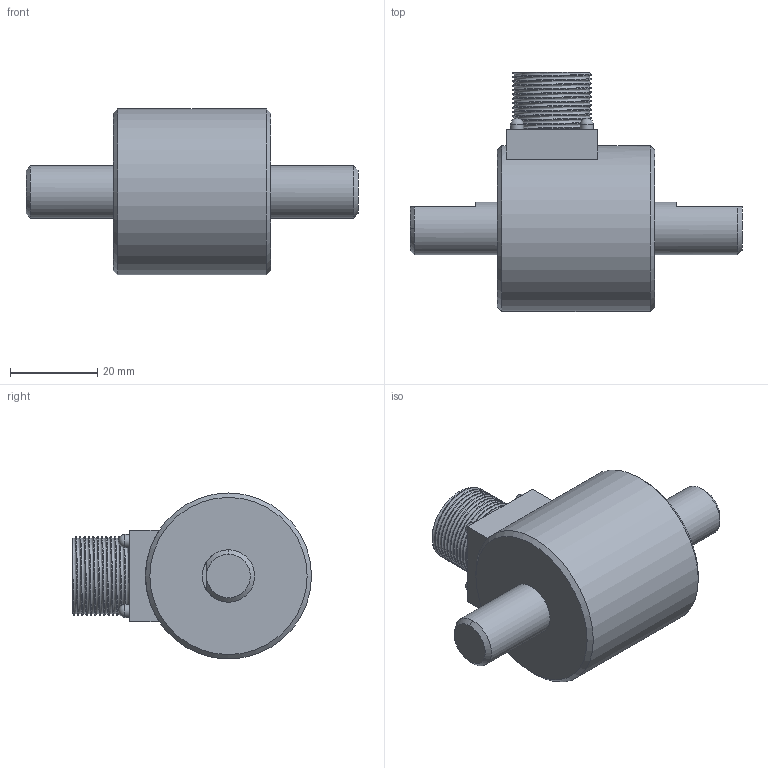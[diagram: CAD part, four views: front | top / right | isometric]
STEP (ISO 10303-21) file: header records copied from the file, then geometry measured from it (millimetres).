
FILE_DESCRIPTION(/* description */ (''),/* implementation_level */ '2;1');
FILE_NAME(/* name */ 'I:/New Datasheets/STEP Models/Pending models/YDNS/YDNS 0.2-5Nm.step',/* time_stamp */ '2020-10-08T10:22:46+01:00',/* author */ (''),/* organization */ (''),/* preprocessor_version */ 'ST-DEVELOPER v18.1',/* originating_system */ 'Autodesk Translation Framework v9.3.0.1241',/* authorisation */ '');
FILE_SCHEMA (('AUTOMOTIVE_DESIGN { 1 0 10303 214 3 1 1 }'));
Length unit declared in the file: millimetre
Products named in the file (3): YDNS 0.2-5Nm; YDNS 2~50KC Body; YDNS 2~50KC Shaft
Assembly tree (2 placements, depth 2):
  YDNS 0.2-5Nm
    YDNS 2~50KC Body
    YDNS 2~50KC Shaft
Bounding box: 76 x 54.7 x 38 mm (x, y, z)
Volume: 50332.7 mm3; surface area: 12163.7 mm2
Topology: 2 solids, 2 shells, 46 faces, 112 edges, 72 vertices
Faces by surface type: cylinder 21, plane 14, cone 6, sphere 4, bspline 1
Full cylindrical faces by diameter (mm): 3 x4, 12 x2, 18 x12, 38 x1
Entity records: 4071 total; most frequent: CARTESIAN_POINT 2907, ORIENTED_EDGE 216, DIRECTION 208, EDGE_CURVE 108, AXIS2_PLACEMENT_3D 84, VERTEX_POINT 72, EDGE_LOOP 54, FACE_OUTER_BOUND 46
